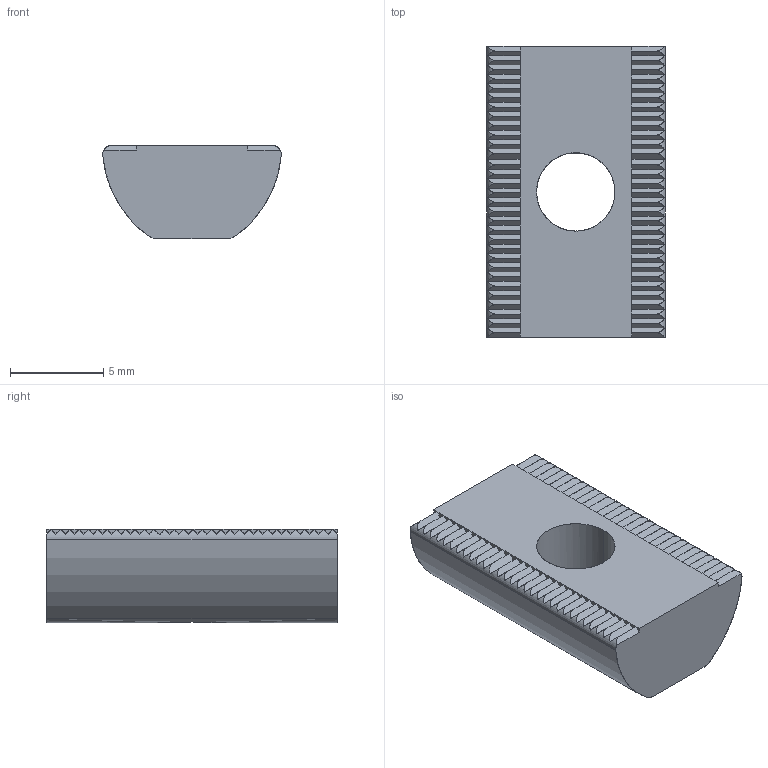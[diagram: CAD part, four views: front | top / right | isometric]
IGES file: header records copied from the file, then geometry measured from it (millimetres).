
Start section: SolidWorks IGES file using analytic representation for surfaces
Global section: file name: C:\Users\admin\Desktop\IGES\J3M5FDE.igs; native system: SolidWorks 2014; preprocessor: SolidWorks 2014; author: admin_pc; date: 170524.165500; units: millimetre
Bounding box: 9.58 x 15.6 x 5 mm (x, y, z)
Surface area: 533.3 mm2 (no closed solid volume)
Topology: 0 solids, 0 shells, 201 faces, 1532 edges, 1532 vertices
Faces by surface type: bspline 193, revolution 8
